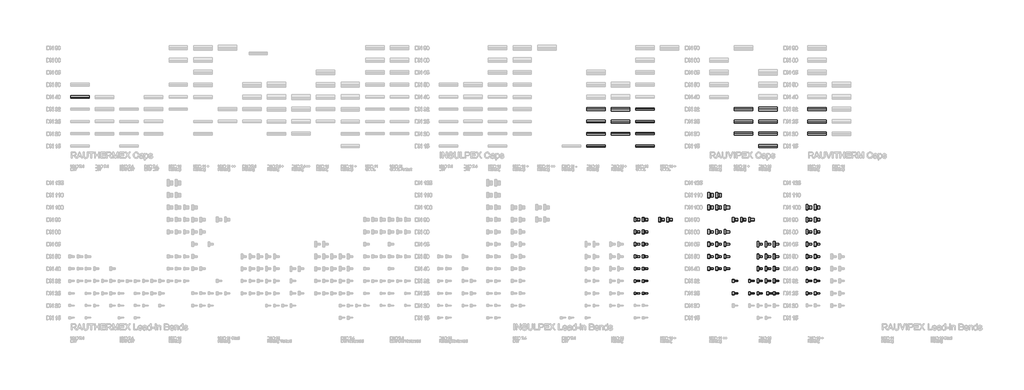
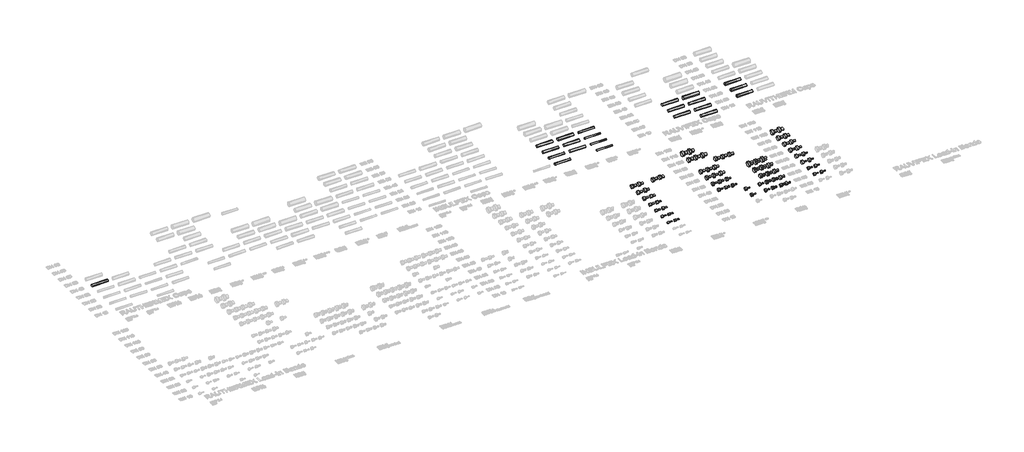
# One storey, part 5 of 44: 71 pipe fittings, 22 pipe segments.
"""IFC4 building model written with IfcOpenShell, lengths in millimetres."""

from ifc_helpers import new_model, si_unit, point, frame, frame_2d, origin, place, context, project, spatial, circle_curve, trimmed, segment, composite_curve, outline, extrude, transform, mapped, element, save
from components import dh_duo_cap_c0886c2c, dh_duo_cap_f26f5e47, dh_duo_cap_4544f480, dh_duo_cap_caf1f0f4, dh_duo_cap_27d9f26a, dh_duo_cap_9bd592f2, dh_duo_cap_72990c74, dh_duo_cap_e9755894, dh_duo_cap_d412eddf, dh_duo_cap_95b3e528, dh_uno_cap_f65759d9, dh_uno_cap_015867e2, dh_uno_cap_38107208, dh_uno_cap_73bbd93a, dh_uno_cap_eec5e457, dh_uno_cap_d7909df6, dh_uno_cap_13f4f05b, dh_uno_cap_8e0573e4, dh_uno_cap_ebf1c952, dh_uno_cap_b74b09e4, dh_uno_cap_660b20ca, dh_uno_cap_ae57088b, dh_uno_cap_9719752f, dh_uno_cap_746ec36d, dh_uno_cap_5b9ad759, dh_uno_cap_f6c26f3b, dh_uno_cap_b64fe8c9, dh_uno_cap_67f7fff9, dh_uno_cap_3a5f6496, dh_uno_cap_e9038ffe, dh_uno_cap_b1d16c7a, dh_uno_cap_cf52e909, dh_uno_cap_fdaf2922, dh_uno_cap_0c5a7a9d, dh_uno_cap_9340323c, dh_uno_cap_8bda4cdc, dh_uno_cap_1999be1b, dh_uno_cap_d5310323, dh_uno_cap_f227d3a7, dh_uno_cap_505df08c

model = new_model("IFC4")

# Units and contexts
model_context = context("Model", 3, world=origin())
ifc_project = project(units=[si_unit("LENGTHUNIT", "METRE", prefix="MILLI")], contexts=[model_context])

# Site, building, storey
site = spatial("IfcSite", under=ifc_project)
building = spatial("IfcBuilding", under=site)
storey = spatial("IfcBuildingStorey", under=building, Name="REHAU Starting view", Elevation=0.0)

# Pipe fittings
placement = place(None, origin())
dh_duo_cap_shape = dh_duo_cap_c0886c2c(model_context)
element("IfcPipeFitting", 1, ObjectType="DH_DUO_CAP : RAUVIPEX DUO 11 Heating - Schrink Cap", at=placement, inside=storey, context=model_context, shape_type="MappedRepresentation", body=[
    mapped(dh_duo_cap_shape, transform((29000.0, 8000.0, 0.0), x_axis=(1.0, 0.0, 0.0), y_axis=(0.0, 1.0, 0.0), z_axis=(0.0, 0.0, 1.0))),
])
element("IfcPipeFitting", 2, ObjectType="DH_DUO_CAP : RAUVIPEX DUO 11 Heating - Rubber Cap", at=placement, inside=storey, context=model_context, shape_type="MappedRepresentation", body=[
    mapped(dh_duo_cap_shape, transform((29400.0, 8000.0, 0.0), x_axis=(1.0, 0.0, 0.0), y_axis=(0.0, 1.0, 0.0), z_axis=(0.0, 0.0, 1.0))),
])
dh_duo_cap_2_shape = dh_duo_cap_f26f5e47(model_context)
element("IfcPipeFitting", 3, ObjectType="DH_DUO_CAP : RAUVIPEX DUO 11 Heating - Solid Cap", at=placement, inside=storey, context=model_context, shape_type="MappedRepresentation", body=[
    mapped(dh_duo_cap_2_shape, transform((29660.0, 8000.0, 0.0), x_axis=(1.0, 0.0, 0.0), y_axis=(0.0, 1.0, 0.0), z_axis=(0.0, 0.0, 1.0))),
])
dh_duo_cap_3_shape = dh_duo_cap_4544f480(model_context)
element("IfcPipeFitting", 4, ObjectType="DH_DUO_CAP : RAUVIPEX DUO 11 Heating - Schrink Cap", at=placement, inside=storey, context=model_context, shape_type="MappedRepresentation", body=[
    mapped(dh_duo_cap_3_shape, transform((29000.0, 8500.0, 0.0), x_axis=(1.0, 0.0, 0.0), y_axis=(0.0, 1.0, 0.0), z_axis=(0.0, 0.0, 1.0))),
])
element("IfcPipeFitting", 5, ObjectType="DH_DUO_CAP : RAUVIPEX DUO 11 Heating - Rubber Cap", at=placement, inside=storey, context=model_context, shape_type="MappedRepresentation", body=[
    mapped(dh_duo_cap_3_shape, transform((29330.0, 8500.0, 0.0), x_axis=(1.0, 0.0, 0.0), y_axis=(0.0, 1.0, 0.0), z_axis=(0.0, 0.0, 1.0))),
])
dh_duo_cap_4_shape = dh_duo_cap_caf1f0f4(model_context)
element("IfcPipeFitting", 6, ObjectType="DH_DUO_CAP : RAUVIPEX DUO 11 Heating - Solid Cap", at=placement, inside=storey, context=model_context, shape_type="MappedRepresentation", body=[
    mapped(dh_duo_cap_4_shape, transform((29660.0, 8500.0, 0.0), x_axis=(1.0, 0.0, 0.0), y_axis=(0.0, 1.0, 0.0), z_axis=(0.0, 0.0, 1.0))),
])
dh_duo_cap_5_shape = dh_duo_cap_27d9f26a(model_context)
element("IfcPipeFitting", 7, ObjectType="DH_DUO_CAP : RAUVIPEX DUO 11 Heating - Schrink Cap", at=placement, inside=storey, context=model_context, shape_type="MappedRepresentation", body=[
    mapped(dh_duo_cap_5_shape, transform((29000.0, 9000.0, 0.0), x_axis=(1.0, 0.0, 0.0), y_axis=(0.0, 1.0, 0.0), z_axis=(0.0, 0.0, 1.0))),
])
element("IfcPipeFitting", 8, ObjectType="DH_DUO_CAP : RAUVIPEX DUO 11 Heating - Rubber Cap", at=placement, inside=storey, context=model_context, shape_type="MappedRepresentation", body=[
    mapped(dh_duo_cap_5_shape, transform((29330.0, 9000.0, 0.0), x_axis=(1.0, 0.0, 0.0), y_axis=(0.0, 1.0, 0.0), z_axis=(0.0, 0.0, 1.0))),
])
dh_duo_cap_6_shape = dh_duo_cap_9bd592f2(model_context)
element("IfcPipeFitting", 9, ObjectType="DH_DUO_CAP : RAUVIPEX DUO 11 Heating - Solid Cap", at=placement, inside=storey, context=model_context, shape_type="MappedRepresentation", body=[
    mapped(dh_duo_cap_6_shape, transform((29660.0, 9000.0, 0.0), x_axis=(1.0, 0.0, 0.0), y_axis=(0.0, 1.0, 0.0), z_axis=(0.0, 0.0, 1.0))),
])
dh_duo_cap_7_shape = dh_duo_cap_72990c74(model_context)
element("IfcPipeFitting", 10, ObjectType="DH_DUO_CAP : RAUVIPEX DUO 11 Heating - Schrink Cap", at=placement, inside=storey, context=model_context, shape_type="MappedRepresentation", body=[
    mapped(dh_duo_cap_7_shape, transform((29000.0, 9500.0, 0.0), x_axis=(1.0, 0.0, 0.0), y_axis=(0.0, 1.0, 0.0), z_axis=(0.0, 0.0, 1.0))),
])
element("IfcPipeFitting", 11, ObjectType="DH_DUO_CAP : RAUVIPEX DUO 11 Heating - Rubber Cap", at=placement, inside=storey, context=model_context, shape_type="MappedRepresentation", body=[
    mapped(dh_duo_cap_7_shape, transform((29330.0, 9500.0, 0.0), x_axis=(1.0, 0.0, 0.0), y_axis=(0.0, 1.0, 0.0), z_axis=(0.0, 0.0, 1.0))),
])
dh_duo_cap_8_shape = dh_duo_cap_e9755894(model_context)
element("IfcPipeFitting", 12, ObjectType="DH_DUO_CAP : RAUVIPEX DUO 11 Heating - Solid Cap", at=placement, inside=storey, context=model_context, shape_type="MappedRepresentation", body=[
    mapped(dh_duo_cap_8_shape, transform((29660.0, 9500.0, 0.0), x_axis=(1.0, 0.0, 0.0), y_axis=(0.0, 1.0, 0.0), z_axis=(0.0, 0.0, 1.0))),
])
dh_duo_cap_9_shape = dh_duo_cap_d412eddf(model_context)
element("IfcPipeFitting", 13, ObjectType="DH_DUO_CAP : RAUVIPEX DUO 11 Heating - Schrink Cap", at=placement, inside=storey, context=model_context, shape_type="MappedRepresentation", body=[
    mapped(dh_duo_cap_9_shape, transform((29000.0, 10000.0, 0.0), x_axis=(1.0, 0.0, 0.0), y_axis=(0.0, 1.0, 0.0), z_axis=(0.0, 0.0, 1.0))),
])
element("IfcPipeFitting", 14, ObjectType="DH_DUO_CAP : RAUVIPEX DUO 11 Heating - Rubber Cap", at=placement, inside=storey, context=model_context, shape_type="MappedRepresentation", body=[
    mapped(dh_duo_cap_9_shape, transform((29330.0, 10000.0, 0.0), x_axis=(1.0, 0.0, 0.0), y_axis=(0.0, 1.0, 0.0), z_axis=(0.0, 0.0, 1.0))),
])
dh_duo_cap_10_shape = dh_duo_cap_95b3e528(model_context)
element("IfcPipeFitting", 15, ObjectType="DH_DUO_CAP : RAUVIPEX DUO 11 Heating - Solid Cap", at=placement, inside=storey, context=model_context, shape_type="MappedRepresentation", body=[
    mapped(dh_duo_cap_10_shape, transform((29660.0, 10000.0, 0.0), x_axis=(1.0, 0.0, 0.0), y_axis=(0.0, 1.0, 0.0), z_axis=(0.0, 0.0, 1.0))),
])
dh_uno_cap_shape = dh_uno_cap_f65759d9(model_context)
element("IfcPipeFitting", 16, ObjectType="DH_UNO_CAP : RAUVIPEX UNO 11 Heating - Schrink Cap", at=placement, inside=storey, context=model_context, shape_type="MappedRepresentation", body=[
    mapped(dh_uno_cap_shape, transform((27000.0, 9000.0, 0.0), x_axis=(1.0, 0.0, 0.0), y_axis=(0.0, 1.0, 0.0), z_axis=(0.0, 0.0, 1.0))),
])
dh_uno_cap_2_shape = dh_uno_cap_015867e2(model_context)
element("IfcPipeFitting", 17, ObjectType="DH_UNO_CAP : RAUVITHERM UNO 11 Heating - Schrink Cap", at=placement, inside=storey, context=model_context, shape_type="MappedRepresentation", body=[
    mapped(dh_uno_cap_2_shape, transform((31000.0, 8000.0, 0.0), x_axis=(1.0, 0.0, 0.0), y_axis=(0.0, -1.0, 0.0), z_axis=(0.0, 0.0, -1.0))),
])
element("IfcPipeFitting", 18, ObjectType="DH_UNO_CAP : RAUVIPEX UNO 11 Heating - Rubber Cap", at=placement, inside=storey, context=model_context, shape_type="MappedRepresentation", body=[
    mapped(dh_uno_cap_shape, transform((27330.0, 9000.0, 0.0), x_axis=(1.0, 0.0, 0.0), y_axis=(0.0, 1.0, 0.0), z_axis=(0.0, 0.0, 1.0))),
])
element("IfcPipeFitting", 19, ObjectType="DH_UNO_CAP : RAUVITHERM UNO 11 Heating - Rubber Cap", at=placement, inside=storey, context=model_context, shape_type="MappedRepresentation", body=[
    mapped(dh_uno_cap_2_shape, transform((31330.0, 8000.0, 0.0), x_axis=(1.0, 0.0, 0.0), y_axis=(0.0, -1.0, 0.0), z_axis=(0.0, 0.0, -1.0))),
])
dh_uno_cap_3_shape = dh_uno_cap_38107208(model_context)
element("IfcPipeFitting", 20, ObjectType="DH_UNO_CAP : RAUVIPEX UNO 11 Heating - Solid Cap", at=placement, inside=storey, context=model_context, shape_type="MappedRepresentation", body=[
    mapped(dh_uno_cap_3_shape, transform((27660.0, 9000.0, 0.0), x_axis=(1.0, 0.0, 0.0), y_axis=(0.0, 1.0, 0.0), z_axis=(0.0, 0.0, 1.0))),
])
dh_uno_cap_4_shape = dh_uno_cap_73bbd93a(model_context)
element("IfcPipeFitting", 21, ObjectType="DH_UNO_CAP : INSULPEX UNO + 11 COOL - Schrink Cap", at=placement, inside=storey, context=model_context, shape_type="MappedRepresentation", body=[
    mapped(dh_uno_cap_4_shape, transform((25000.0, 11000.0, 0.0), x_axis=(1.0, 0.0, 0.0), y_axis=(0.0, 1.0, 0.0), z_axis=(0.0, 0.0, 1.0))),
])
element("IfcPipeFitting", 22, ObjectType="DH_UNO_CAP : INSULPEX UNO + 11 COOL - Rubber Cap", at=placement, inside=storey, context=model_context, shape_type="MappedRepresentation", body=[
    mapped(dh_uno_cap_4_shape, transform((25330.0, 11000.0, 0.0), x_axis=(1.0, 0.0, 0.0), y_axis=(0.0, 1.0, 0.0), z_axis=(0.0, 0.0, 1.0))),
])
dh_uno_cap_5_shape = dh_uno_cap_eec5e457(model_context)
element("IfcPipeFitting", 23, ObjectType="DH_UNO_CAP : INSULPEX UNO 11 COOL - Rubber Cap", at=placement, inside=storey, context=model_context, shape_type="MappedRepresentation", body=[
    mapped(dh_uno_cap_5_shape, transform((24330.0, 11000.0, 0.0), x_axis=(1.0, 0.0, 0.0), y_axis=(0.0, -1.0, 0.0), z_axis=(0.0, 0.0, -1.0))),
])
element("IfcPipeFitting", 24, ObjectType="DH_UNO_CAP : INSULPEX UNO 11 COOL - Schrink Cap", at=placement, inside=storey, context=model_context, shape_type="MappedRepresentation", body=[
    mapped(dh_uno_cap_5_shape, transform((24000.0, 11000.0, 0.0), x_axis=(1.0, 0.0, 0.0), y_axis=(0.0, -1.0, 0.0), z_axis=(0.0, 0.0, -1.0))),
])
dh_uno_cap_6_shape = dh_uno_cap_d7909df6(model_context)
element("IfcPipeFitting", 25, ObjectType="DH_UNO_CAP : RAUVIPEX UNO + 11 Heating - Rubber Cap", at=placement, inside=storey, context=model_context, shape_type="MappedRepresentation", body=[
    mapped(dh_uno_cap_6_shape, transform((28330.0, 11000.0, 0.0), x_axis=(1.0, 0.0, 0.0), y_axis=(0.0, 1.0, 0.0), z_axis=(0.0, 0.0, 1.0))),
])
element("IfcPipeFitting", 26, ObjectType="DH_UNO_CAP : RAUVIPEX UNO + 11 Heating - Schrink Cap", at=placement, inside=storey, context=model_context, shape_type="MappedRepresentation", body=[
    mapped(dh_uno_cap_6_shape, transform((28000.0, 11000.0, 0.0), x_axis=(1.0, 0.0, 0.0), y_axis=(0.0, 1.0, 0.0), z_axis=(0.0, 0.0, 1.0))),
])
dh_uno_cap_7_shape = dh_uno_cap_13f4f05b(model_context)
element("IfcPipeFitting", 27, ObjectType="DH_UNO_CAP : RAUVIPEX UNO + 11 Heating - Solid Cap", at=placement, inside=storey, context=model_context, shape_type="MappedRepresentation", body=[
    mapped(dh_uno_cap_7_shape, transform((28660.0, 11000.0, 0.0), x_axis=(1.0, 0.0, 0.0), y_axis=(0.0, 1.0, 0.0), z_axis=(0.0, 0.0, 1.0))),
])
dh_uno_cap_8_shape = dh_uno_cap_8e0573e4(model_context)
element("IfcPipeFitting", 28, ObjectType="DH_UNO_CAP : INSULPEX UNO 11 COOL - Schrink Cap", at=placement, inside=storey, context=model_context, shape_type="MappedRepresentation", body=[
    mapped(dh_uno_cap_8_shape, transform((24000.0, 8000.0, 0.0), x_axis=(1.0, 0.0, 0.0), y_axis=(0.0, -1.0, 0.0), z_axis=(0.0, 0.0, -1.0))),
])
dh_uno_cap_9_shape = dh_uno_cap_ebf1c952(model_context)
element("IfcPipeFitting", 29, ObjectType="DH_UNO_CAP : INSULPEX UNO 11 COOL - Schrink Cap", at=placement, inside=storey, context=model_context, shape_type="MappedRepresentation", body=[
    mapped(dh_uno_cap_9_shape, transform((24000.0, 8500.0, 0.0), x_axis=(1.0, 0.0, 0.0), y_axis=(0.0, -1.0, 0.0), z_axis=(0.0, 0.0, -1.0))),
])
dh_uno_cap_10_shape = dh_uno_cap_b74b09e4(model_context)
element("IfcPipeFitting", 30, ObjectType="DH_UNO_CAP : INSULPEX UNO 11 COOL - Schrink Cap", at=placement, inside=storey, context=model_context, shape_type="MappedRepresentation", body=[
    mapped(dh_uno_cap_10_shape, transform((24000.0, 9000.0, 0.0), x_axis=(1.0, 0.0, 0.0), y_axis=(0.0, -1.0, 0.0), z_axis=(0.0, 0.0, -1.0))),
])
dh_uno_cap_11_shape = dh_uno_cap_660b20ca(model_context)
element("IfcPipeFitting", 31, ObjectType="DH_UNO_CAP : INSULPEX UNO 11 COOL - Schrink Cap", at=placement, inside=storey, context=model_context, shape_type="MappedRepresentation", body=[
    mapped(dh_uno_cap_11_shape, transform((24000.0, 9500.0, 0.0), x_axis=(1.0, 0.0, 0.0), y_axis=(0.0, -1.0, 0.0), z_axis=(0.0, 0.0, -1.0))),
])
dh_uno_cap_12_shape = dh_uno_cap_ae57088b(model_context)
element("IfcPipeFitting", 32, ObjectType="DH_UNO_CAP : INSULPEX UNO 11 COOL - Schrink Cap", at=placement, inside=storey, context=model_context, shape_type="MappedRepresentation", body=[
    mapped(dh_uno_cap_12_shape, transform((24000.0, 10000.0, 0.0), x_axis=(1.0, 0.0, 0.0), y_axis=(0.0, -1.0, 0.0), z_axis=(0.0, 0.0, -1.0))),
])
dh_uno_cap_13_shape = dh_uno_cap_9719752f(model_context)
element("IfcPipeFitting", 33, ObjectType="DH_UNO_CAP : INSULPEX UNO 11 COOL - Schrink Cap", at=placement, inside=storey, context=model_context, shape_type="MappedRepresentation", body=[
    mapped(dh_uno_cap_13_shape, transform((24000.0, 10500.0, 0.0), x_axis=(1.0, 0.0, 0.0), y_axis=(0.0, -1.0, 0.0), z_axis=(0.0, 0.0, -1.0))),
])
dh_uno_cap_14_shape = dh_uno_cap_746ec36d(model_context)
element("IfcPipeFitting", 34, ObjectType="DH_UNO_CAP : RAUVITHERM UNO 11 Heating - Schrink Cap", at=placement, inside=storey, context=model_context, shape_type="MappedRepresentation", body=[
    mapped(dh_uno_cap_14_shape, transform((31000.0, 8500.0, 0.0), x_axis=(1.0, 0.0, 0.0), y_axis=(0.0, -1.0, 0.0), z_axis=(0.0, 0.0, -1.0))),
])
element("IfcPipeFitting", 35, ObjectType="DH_UNO_CAP : RAUVITHERM UNO 11 Heating - Rubber Cap", at=placement, inside=storey, context=model_context, shape_type="MappedRepresentation", body=[
    mapped(dh_uno_cap_14_shape, transform((31330.0, 8500.0, 0.0), x_axis=(1.0, 0.0, 0.0), y_axis=(0.0, -1.0, 0.0), z_axis=(0.0, 0.0, -1.0))),
])
dh_uno_cap_15_shape = dh_uno_cap_5b9ad759(model_context)
element("IfcPipeFitting", 36, ObjectType="DH_UNO_CAP : RAUVITHERM UNO 11 Heating - Schrink Cap", at=placement, inside=storey, context=model_context, shape_type="MappedRepresentation", body=[
    mapped(dh_uno_cap_15_shape, transform((31000.0, 9000.0, 0.0), x_axis=(1.0, 0.0, 0.0), y_axis=(0.0, -1.0, 0.0), z_axis=(0.0, 0.0, -1.0))),
])
element("IfcPipeFitting", 37, ObjectType="DH_UNO_CAP : RAUVITHERM UNO 11 Heating - Rubber Cap", at=placement, inside=storey, context=model_context, shape_type="MappedRepresentation", body=[
    mapped(dh_uno_cap_15_shape, transform((31330.0, 9000.0, 0.0), x_axis=(1.0, 0.0, 0.0), y_axis=(0.0, -1.0, 0.0), z_axis=(0.0, 0.0, -1.0))),
])
dh_uno_cap_16_shape = dh_uno_cap_f6c26f3b(model_context)
element("IfcPipeFitting", 38, ObjectType="DH_UNO_CAP : RAUVITHERM UNO 11 Heating - Schrink Cap", at=placement, inside=storey, context=model_context, shape_type="MappedRepresentation", body=[
    mapped(dh_uno_cap_16_shape, transform((31000.0, 9500.0, 0.0), x_axis=(1.0, 0.0, 0.0), y_axis=(0.0, -1.0, 0.0), z_axis=(0.0, 0.0, -1.0))),
])
element("IfcPipeFitting", 39, ObjectType="DH_UNO_CAP : RAUVITHERM UNO 11 Heating - Rubber Cap", at=placement, inside=storey, context=model_context, shape_type="MappedRepresentation", body=[
    mapped(dh_uno_cap_16_shape, transform((31330.0, 9500.0, 0.0), x_axis=(1.0, 0.0, 0.0), y_axis=(0.0, -1.0, 0.0), z_axis=(0.0, 0.0, -1.0))),
])
dh_uno_cap_17_shape = dh_uno_cap_b64fe8c9(model_context)
element("IfcPipeFitting", 40, ObjectType="DH_UNO_CAP : RAUVITHERM UNO 11 Heating - Schrink Cap", at=placement, inside=storey, context=model_context, shape_type="MappedRepresentation", body=[
    mapped(dh_uno_cap_17_shape, transform((31000.0, 10000.0, 0.0), x_axis=(1.0, 0.0, 0.0), y_axis=(0.0, -1.0, 0.0), z_axis=(0.0, 0.0, -1.0))),
])
element("IfcPipeFitting", 41, ObjectType="DH_UNO_CAP : RAUVITHERM UNO 11 Heating - Rubber Cap", at=placement, inside=storey, context=model_context, shape_type="MappedRepresentation", body=[
    mapped(dh_uno_cap_17_shape, transform((31330.0, 10000.0, 0.0), x_axis=(1.0, 0.0, 0.0), y_axis=(0.0, -1.0, 0.0), z_axis=(0.0, 0.0, -1.0))),
])
dh_uno_cap_18_shape = dh_uno_cap_67f7fff9(model_context)
element("IfcPipeFitting", 42, ObjectType="DH_UNO_CAP : RAUVITHERM UNO 11 Heating - Schrink Cap", at=placement, inside=storey, context=model_context, shape_type="MappedRepresentation", body=[
    mapped(dh_uno_cap_18_shape, transform((31000.0, 10500.0, 0.0), x_axis=(1.0, 0.0, 0.0), y_axis=(0.0, -1.0, 0.0), z_axis=(0.0, 0.0, -1.0))),
])
element("IfcPipeFitting", 43, ObjectType="DH_UNO_CAP : RAUVITHERM UNO 11 Heating - Rubber Cap", at=placement, inside=storey, context=model_context, shape_type="MappedRepresentation", body=[
    mapped(dh_uno_cap_18_shape, transform((31330.0, 10500.0, 0.0), x_axis=(1.0, 0.0, 0.0), y_axis=(0.0, -1.0, 0.0), z_axis=(0.0, 0.0, -1.0))),
])
dh_uno_cap_19_shape = dh_uno_cap_3a5f6496(model_context)
element("IfcPipeFitting", 44, ObjectType="DH_UNO_CAP : RAUVITHERM UNO 11 Heating - Schrink Cap", at=placement, inside=storey, context=model_context, shape_type="MappedRepresentation", body=[
    mapped(dh_uno_cap_19_shape, transform((31000.0, 11000.0, 0.0), x_axis=(1.0, 0.0, 0.0), y_axis=(0.0, -1.0, 0.0), z_axis=(0.0, 0.0, -1.0))),
])
element("IfcPipeFitting", 45, ObjectType="DH_UNO_CAP : RAUVITHERM UNO 11 Heating - Rubber Cap", at=placement, inside=storey, context=model_context, shape_type="MappedRepresentation", body=[
    mapped(dh_uno_cap_19_shape, transform((31330.0, 11000.0, 0.0), x_axis=(1.0, 0.0, 0.0), y_axis=(0.0, -1.0, 0.0), z_axis=(0.0, 0.0, -1.0))),
])
dh_uno_cap_20_shape = dh_uno_cap_e9038ffe(model_context)
element("IfcPipeFitting", 46, ObjectType="DH_UNO_CAP : RAUVITHERM UNO 11 Heating - Schrink Cap", at=placement, inside=storey, context=model_context, shape_type="MappedRepresentation", body=[
    mapped(dh_uno_cap_20_shape, transform((31000.0, 11500.0, 0.0), x_axis=(1.0, 0.0, 0.0), y_axis=(0.0, -1.0, 0.0), z_axis=(0.0, 0.0, -1.0))),
])
element("IfcPipeFitting", 47, ObjectType="DH_UNO_CAP : RAUVITHERM UNO 11 Heating - Rubber Cap", at=placement, inside=storey, context=model_context, shape_type="MappedRepresentation", body=[
    mapped(dh_uno_cap_20_shape, transform((31330.0, 11500.0, 0.0), x_axis=(1.0, 0.0, 0.0), y_axis=(0.0, -1.0, 0.0), z_axis=(0.0, 0.0, -1.0))),
])
element("IfcPipeFitting", 48, ObjectType="DH_UNO_CAP : RAUVIPEX UNO 11 Heating - Schrink Cap", at=placement, inside=storey, context=model_context, shape_type="MappedRepresentation", body=[
    mapped(dh_uno_cap_16_shape, transform((27000.0, 9500.0, 0.0), x_axis=(1.0, 0.0, 0.0), y_axis=(0.0, 1.0, 0.0), z_axis=(0.0, 0.0, 1.0))),
])
element("IfcPipeFitting", 49, ObjectType="DH_UNO_CAP : RAUVIPEX UNO 11 Heating - Schrink Cap", at=placement, inside=storey, context=model_context, shape_type="MappedRepresentation", body=[
    mapped(dh_uno_cap_17_shape, transform((27000.0, 10000.0, 0.0), x_axis=(1.0, 0.0, 0.0), y_axis=(0.0, 1.0, 0.0), z_axis=(0.0, 0.0, 1.0))),
])
element("IfcPipeFitting", 50, ObjectType="DH_UNO_CAP : RAUVIPEX UNO 11 Heating - Schrink Cap", at=placement, inside=storey, context=model_context, shape_type="MappedRepresentation", body=[
    mapped(dh_uno_cap_18_shape, transform((27000.0, 10500.0, 0.0), x_axis=(1.0, 0.0, 0.0), y_axis=(0.0, 1.0, 0.0), z_axis=(0.0, 0.0, 1.0))),
])
dh_uno_cap_21_shape = dh_uno_cap_b1d16c7a(model_context)
element("IfcPipeFitting", 51, ObjectType="DH_UNO_CAP : RAUVIPEX UNO 11 Heating - Schrink Cap", at=placement, inside=storey, context=model_context, shape_type="MappedRepresentation", body=[
    mapped(dh_uno_cap_21_shape, transform((27000.0, 11500.0, 0.0), x_axis=(1.0, 0.0, 0.0), y_axis=(0.0, 1.0, 0.0), z_axis=(0.0, 0.0, 1.0))),
])
dh_uno_cap_22_shape = dh_uno_cap_cf52e909(model_context)
element("IfcPipeFitting", 52, ObjectType="DH_UNO_CAP : RAUVIPEX UNO 11 Heating - Schrink Cap", at=placement, inside=storey, context=model_context, shape_type="MappedRepresentation", body=[
    mapped(dh_uno_cap_22_shape, transform((27000.0, 12000.0, 0.0), x_axis=(1.0, 0.0, 0.0), y_axis=(0.0, 1.0, 0.0), z_axis=(0.0, 0.0, 1.0))),
])
dh_uno_cap_23_shape = dh_uno_cap_fdaf2922(model_context)
element("IfcPipeFitting", 53, ObjectType="DH_UNO_CAP : RAUVIPEX UNO + 11 Heating - Schrink Cap", at=placement, inside=storey, context=model_context, shape_type="MappedRepresentation", body=[
    mapped(dh_uno_cap_23_shape, transform((28000.0, 8000.0, 0.0), x_axis=(1.0, 0.0, 0.0), y_axis=(0.0, 1.0, 0.0), z_axis=(0.0, 0.0, 1.0))),
])
dh_uno_cap_24_shape = dh_uno_cap_0c5a7a9d(model_context)
element("IfcPipeFitting", 54, ObjectType="DH_UNO_CAP : RAUVIPEX UNO + 11 Heating - Solid Cap", at=placement, inside=storey, context=model_context, shape_type="MappedRepresentation", body=[
    mapped(dh_uno_cap_24_shape, transform((28660.0, 8000.0, 0.0), x_axis=(1.0, 0.0, 0.0), y_axis=(0.0, 1.0, 0.0), z_axis=(0.0, 0.0, 1.0))),
])
dh_uno_cap_25_shape = dh_uno_cap_9340323c(model_context)
element("IfcPipeFitting", 55, ObjectType="DH_UNO_CAP : RAUVIPEX UNO + 11 Heating - Schrink Cap", at=placement, inside=storey, context=model_context, shape_type="MappedRepresentation", body=[
    mapped(dh_uno_cap_25_shape, transform((28000.0, 8500.0, 0.0), x_axis=(1.0, 0.0, 0.0), y_axis=(0.0, 1.0, 0.0), z_axis=(0.0, 0.0, 1.0))),
])
dh_uno_cap_26_shape = dh_uno_cap_8bda4cdc(model_context)
element("IfcPipeFitting", 56, ObjectType="DH_UNO_CAP : RAUVIPEX UNO + 11 Heating - Solid Cap", at=placement, inside=storey, context=model_context, shape_type="MappedRepresentation", body=[
    mapped(dh_uno_cap_26_shape, transform((28660.0, 8500.0, 0.0), x_axis=(1.0, 0.0, 0.0), y_axis=(0.0, 1.0, 0.0), z_axis=(0.0, 0.0, 1.0))),
])
element("IfcPipeFitting", 57, ObjectType="DH_UNO_CAP : INSULPEX UNO 11 COOL - Rubber Cap", at=placement, inside=storey, context=model_context, shape_type="MappedRepresentation", body=[
    mapped(dh_uno_cap_8_shape, transform((24330.0, 8000.0, 0.0), x_axis=(1.0, 0.0, 0.0), y_axis=(0.0, -1.0, 0.0), z_axis=(0.0, 0.0, -1.0))),
])
element("IfcPipeFitting", 58, ObjectType="DH_UNO_CAP : INSULPEX UNO 11 COOL - Rubber Cap", at=placement, inside=storey, context=model_context, shape_type="MappedRepresentation", body=[
    mapped(dh_uno_cap_9_shape, transform((24330.0, 8500.0, 0.0), x_axis=(1.0, 0.0, 0.0), y_axis=(0.0, -1.0, 0.0), z_axis=(0.0, 0.0, -1.0))),
])
element("IfcPipeFitting", 59, ObjectType="DH_UNO_CAP : INSULPEX UNO 11 COOL - Rubber Cap", at=placement, inside=storey, context=model_context, shape_type="MappedRepresentation", body=[
    mapped(dh_uno_cap_10_shape, transform((24330.0, 9000.0, 0.0), x_axis=(1.0, 0.0, 0.0), y_axis=(0.0, -1.0, 0.0), z_axis=(0.0, 0.0, -1.0))),
])
element("IfcPipeFitting", 60, ObjectType="DH_UNO_CAP : INSULPEX UNO 11 COOL - Rubber Cap", at=placement, inside=storey, context=model_context, shape_type="MappedRepresentation", body=[
    mapped(dh_uno_cap_11_shape, transform((24330.0, 9500.0, 0.0), x_axis=(1.0, 0.0, 0.0), y_axis=(0.0, -1.0, 0.0), z_axis=(0.0, 0.0, -1.0))),
])
element("IfcPipeFitting", 61, ObjectType="DH_UNO_CAP : INSULPEX UNO 11 COOL - Rubber Cap", at=placement, inside=storey, context=model_context, shape_type="MappedRepresentation", body=[
    mapped(dh_uno_cap_12_shape, transform((24330.0, 10000.0, 0.0), x_axis=(1.0, 0.0, 0.0), y_axis=(0.0, -1.0, 0.0), z_axis=(0.0, 0.0, -1.0))),
])
element("IfcPipeFitting", 62, ObjectType="DH_UNO_CAP : INSULPEX UNO 11 COOL - Rubber Cap", at=placement, inside=storey, context=model_context, shape_type="MappedRepresentation", body=[
    mapped(dh_uno_cap_13_shape, transform((24330.0, 10500.0, 0.0), x_axis=(1.0, 0.0, 0.0), y_axis=(0.0, -1.0, 0.0), z_axis=(0.0, 0.0, -1.0))),
])
element("IfcPipeFitting", 63, ObjectType="DH_UNO_CAP : RAUVIPEX UNO 11 Heating - Rubber Cap", at=placement, inside=storey, context=model_context, shape_type="MappedRepresentation", body=[
    mapped(dh_uno_cap_16_shape, transform((27330.0, 9500.0, 0.0), x_axis=(1.0, 0.0, 0.0), y_axis=(0.0, 1.0, 0.0), z_axis=(0.0, 0.0, 1.0))),
])
element("IfcPipeFitting", 64, ObjectType="DH_UNO_CAP : RAUVIPEX UNO 11 Heating - Rubber Cap", at=placement, inside=storey, context=model_context, shape_type="MappedRepresentation", body=[
    mapped(dh_uno_cap_17_shape, transform((27330.0, 10000.0, 0.0), x_axis=(1.0, 0.0, 0.0), y_axis=(0.0, 1.0, 0.0), z_axis=(0.0, 0.0, 1.0))),
])
element("IfcPipeFitting", 65, ObjectType="DH_UNO_CAP : RAUVIPEX UNO 11 Heating - Rubber Cap", at=placement, inside=storey, context=model_context, shape_type="MappedRepresentation", body=[
    mapped(dh_uno_cap_18_shape, transform((27330.0, 10500.0, 0.0), x_axis=(1.0, 0.0, 0.0), y_axis=(0.0, 1.0, 0.0), z_axis=(0.0, 0.0, 1.0))),
])
element("IfcPipeFitting", 66, ObjectType="DH_UNO_CAP : RAUVIPEX UNO 11 Heating - Rubber Cap", at=placement, inside=storey, context=model_context, shape_type="MappedRepresentation", body=[
    mapped(dh_uno_cap_21_shape, transform((27330.0, 11500.0, 0.0), x_axis=(1.0, 0.0, 0.0), y_axis=(0.0, 1.0, 0.0), z_axis=(0.0, 0.0, 1.0))),
])
element("IfcPipeFitting", 67, ObjectType="DH_UNO_CAP : RAUVIPEX UNO 11 Heating - Rubber Cap", at=placement, inside=storey, context=model_context, shape_type="MappedRepresentation", body=[
    mapped(dh_uno_cap_22_shape, transform((27330.0, 12000.0, 0.0), x_axis=(1.0, 0.0, 0.0), y_axis=(0.0, 1.0, 0.0), z_axis=(0.0, 0.0, 1.0))),
])
dh_uno_cap_27_shape = dh_uno_cap_1999be1b(model_context)
element("IfcPipeFitting", 68, ObjectType="DH_UNO_CAP : RAUVIPEX UNO 11 Heating - Solid Cap", at=placement, inside=storey, context=model_context, shape_type="MappedRepresentation", body=[
    mapped(dh_uno_cap_27_shape, transform((27660.0, 9500.0, 0.0), x_axis=(1.0, 0.0, 0.0), y_axis=(0.0, 1.0, 0.0), z_axis=(0.0, 0.0, 1.0))),
])
dh_uno_cap_28_shape = dh_uno_cap_d5310323(model_context)
element("IfcPipeFitting", 69, ObjectType="DH_UNO_CAP : RAUVIPEX UNO 11 Heating - Solid Cap", at=placement, inside=storey, context=model_context, shape_type="MappedRepresentation", body=[
    mapped(dh_uno_cap_28_shape, transform((27660.0, 10000.0, 0.0), x_axis=(1.0, 0.0, 0.0), y_axis=(0.0, 1.0, 0.0), z_axis=(0.0, 0.0, 1.0))),
])
dh_uno_cap_29_shape = dh_uno_cap_f227d3a7(model_context)
element("IfcPipeFitting", 70, ObjectType="DH_UNO_CAP : RAUVIPEX UNO 11 Heating - Solid Cap", at=placement, inside=storey, context=model_context, shape_type="MappedRepresentation", body=[
    mapped(dh_uno_cap_29_shape, transform((27660.0, 10500.0, 0.0), x_axis=(1.0, 0.0, 0.0), y_axis=(0.0, 1.0, 0.0), z_axis=(0.0, 0.0, 1.0))),
])
dh_uno_cap_30_shape = dh_uno_cap_505df08c(model_context)
element("IfcPipeFitting", 71, ObjectType="DH_UNO_CAP : RAUVIPEX UNO 11 Heating - Solid Cap", at=placement, inside=storey, context=model_context, shape_type="MappedRepresentation", body=[
    mapped(dh_uno_cap_30_shape, transform((27660.0, 11500.0, 0.0), x_axis=(1.0, 0.0, 0.0), y_axis=(0.0, 1.0, 0.0), z_axis=(0.0, 0.0, 1.0))),
])

# Pipe segments
element("IfcPipeSegment", 72, ObjectType="RAUTHERMEX UNO 7.4 DW", at=placement, inside=storey, context=model_context, shape_type="SweptSolid", body=[
    extrude(outline(composite_curve([segment(trimmed(circle_curve(frame_2d((16000.0, 0.0)), 55.5), [point((15944.5, 0.0))], [point((16000.0, 55.5))], False, "CARTESIAN"), True, "CONTINUOUS"), segment(trimmed(circle_curve(frame_2d((16000.0, 0.0)), 55.5), [point((16000.0, 55.5))], [point((16055.5, 0.0))], False, "CARTESIAN"), True, "CONTINUOUS"), segment(trimmed(circle_curve(frame_2d((16000.0, 0.0)), 55.5), [point((16055.5, 0.0))], [point((16000.0, -55.5))], False, "CARTESIAN"), True, "CONTINUOUS"), segment(trimmed(circle_curve(frame_2d((16000.0, 0.0)), 55.5), [point((16000.0, -55.5))], [point((15944.5, 0.0))], False, "CARTESIAN"), True, "CONTINUOUS")], self_intersect=False)), frame((1000.0, 0.0, 0.0), z_axis=(1.0, 0.0, 0.0), x_axis=(0.0, 1.0, 0.0)), (0.0, 0.0, 1.0), 750.0),
])
element("IfcPipeSegment", 73, ObjectType="INSULPEX DUO 11 Heating", at=placement, inside=storey, context=model_context, shape_type="SweptSolid", body=[
    extrude(outline(composite_curve([segment(trimmed(circle_curve(frame_2d((15000.0, 0.0)), 55.0), [point((14945.0, 0.0))], [point((15000.0, 55.0))], False, "CARTESIAN"), True, "CONTINUOUS"), segment(trimmed(circle_curve(frame_2d((15000.0, 0.0)), 55.0), [point((15000.0, 55.0))], [point((15055.0, 0.0))], False, "CARTESIAN"), True, "CONTINUOUS"), segment(trimmed(circle_curve(frame_2d((15000.0, 0.0)), 55.0), [point((15055.0, 0.0))], [point((15000.0, -55.0))], False, "CARTESIAN"), True, "CONTINUOUS"), segment(trimmed(circle_curve(frame_2d((15000.0, 0.0)), 55.0), [point((15000.0, -55.0))], [point((14945.0, 0.0))], False, "CARTESIAN"), True, "CONTINUOUS")], self_intersect=False)), frame((22000.0, 0.0, 0.0), z_axis=(1.0, 0.0, 0.0), x_axis=(0.0, 1.0, 0.0)), (0.0, 0.0, 1.0), 750.0),
])
element("IfcPipeSegment", 74, ObjectType="INSULPEX DUO 11 Heating", at=placement, inside=storey, context=model_context, shape_type="SweptSolid", body=[
    extrude(outline(composite_curve([segment(trimmed(circle_curve(frame_2d((15500.0, 0.0)), 62.5), [point((15437.5, 0.0))], [point((15500.0, 62.5))], False, "CARTESIAN"), True, "CONTINUOUS"), segment(trimmed(circle_curve(frame_2d((15500.0, 0.0)), 62.5), [point((15500.0, 62.5))], [point((15562.5, 0.0))], False, "CARTESIAN"), True, "CONTINUOUS"), segment(trimmed(circle_curve(frame_2d((15500.0, 0.0)), 62.5), [point((15562.5, 0.0))], [point((15500.0, -62.5))], False, "CARTESIAN"), True, "CONTINUOUS"), segment(trimmed(circle_curve(frame_2d((15500.0, 0.0)), 62.5), [point((15500.0, -62.5))], [point((15437.5, 0.0))], False, "CARTESIAN"), True, "CONTINUOUS")], self_intersect=False)), frame((22000.0, 0.0, 0.0), z_axis=(1.0, 0.0, 0.0), x_axis=(0.0, 1.0, 0.0)), (0.0, 0.0, 1.0), 750.0),
])
element("IfcPipeSegment", 75, ObjectType="INSULPEX DUO 11 Heating", at=placement, inside=storey, context=model_context, shape_type="SweptSolid", body=[
    extrude(outline(composite_curve([segment(trimmed(circle_curve(frame_2d((14500.0, 0.0)), 45.0), [point((14455.0, 0.0))], [point((14500.0, 45.0))], False, "CARTESIAN"), True, "CONTINUOUS"), segment(trimmed(circle_curve(frame_2d((14500.0, 0.0)), 45.0), [point((14500.0, 45.0))], [point((14545.0, 0.0))], False, "CARTESIAN"), True, "CONTINUOUS"), segment(trimmed(circle_curve(frame_2d((14500.0, 0.0)), 45.0), [point((14545.0, 0.0))], [point((14500.0, -45.0))], False, "CARTESIAN"), True, "CONTINUOUS"), segment(trimmed(circle_curve(frame_2d((14500.0, 0.0)), 45.0), [point((14500.0, -45.0))], [point((14455.0, 0.0))], False, "CARTESIAN"), True, "CONTINUOUS")], self_intersect=False)), frame((22000.0, 0.0, 0.0), z_axis=(1.0, 0.0, 0.0), x_axis=(0.0, 1.0, 0.0)), (0.0, 0.0, 1.0), 750.0),
])
element("IfcPipeSegment", 76, ObjectType="INSULPEX DUO 11 Heating", at=placement, inside=storey, context=model_context, shape_type="SweptSolid", body=[
    extrude(outline(composite_curve([segment(trimmed(circle_curve(frame_2d((14000.0, 0.0)), 45.0), [point((13955.0, 0.0))], [point((14000.0, 45.0))], False, "CARTESIAN"), True, "CONTINUOUS"), segment(trimmed(circle_curve(frame_2d((14000.0, 0.0)), 45.0), [point((14000.0, 45.0))], [point((14045.0, 0.0))], False, "CARTESIAN"), True, "CONTINUOUS"), segment(trimmed(circle_curve(frame_2d((14000.0, 0.0)), 45.0), [point((14045.0, 0.0))], [point((14000.0, -45.0))], False, "CARTESIAN"), True, "CONTINUOUS"), segment(trimmed(circle_curve(frame_2d((14000.0, 0.0)), 45.0), [point((14000.0, -45.0))], [point((13955.0, 0.0))], False, "CARTESIAN"), True, "CONTINUOUS")], self_intersect=False)), frame((22000.0, 0.0, 0.0), z_axis=(1.0, 0.0, 0.0), x_axis=(0.0, 1.0, 0.0)), (0.0, 0.0, 1.0), 750.0),
])
element("IfcPipeSegment", 77, ObjectType="INSULPEX DUO + 11 Heating", at=placement, inside=storey, context=model_context, shape_type="SweptSolid", body=[
    extrude(outline(composite_curve([segment(trimmed(circle_curve(frame_2d((15000.0, 0.0)), 62.5), [point((14937.5, 0.0))], [point((15000.0, 62.5))], False, "CARTESIAN"), True, "CONTINUOUS"), segment(trimmed(circle_curve(frame_2d((15000.0, 0.0)), 62.5), [point((15000.0, 62.5))], [point((15062.5, 0.0))], False, "CARTESIAN"), True, "CONTINUOUS"), segment(trimmed(circle_curve(frame_2d((15000.0, 0.0)), 62.5), [point((15062.5, 0.0))], [point((15000.0, -62.5))], False, "CARTESIAN"), True, "CONTINUOUS"), segment(trimmed(circle_curve(frame_2d((15000.0, 0.0)), 62.5), [point((15000.0, -62.5))], [point((14937.5, 0.0))], False, "CARTESIAN"), True, "CONTINUOUS")], self_intersect=False)), frame((23000.0, 0.0, 0.0), z_axis=(1.0, 0.0, 0.0), x_axis=(0.0, 1.0, 0.0)), (0.0, 0.0, 1.0), 750.0),
])
element("IfcPipeSegment", 78, ObjectType="INSULPEX DUO + 11 Heating", at=placement, inside=storey, context=model_context, shape_type="SweptSolid", body=[
    extrude(outline(composite_curve([segment(trimmed(circle_curve(frame_2d((15500.0, 0.0)), 70.0), [point((15430.0, 0.0))], [point((15500.0, 70.0))], False, "CARTESIAN"), True, "CONTINUOUS"), segment(trimmed(circle_curve(frame_2d((15500.0, 0.0)), 70.0), [point((15500.0, 70.0))], [point((15570.0, 0.0))], False, "CARTESIAN"), True, "CONTINUOUS"), segment(trimmed(circle_curve(frame_2d((15500.0, 0.0)), 70.0), [point((15570.0, 0.0))], [point((15500.0, -70.0))], False, "CARTESIAN"), True, "CONTINUOUS"), segment(trimmed(circle_curve(frame_2d((15500.0, 0.0)), 70.0), [point((15500.0, -70.0))], [point((15430.0, 0.0))], False, "CARTESIAN"), True, "CONTINUOUS")], self_intersect=False)), frame((23000.0, 0.0, 0.0), z_axis=(1.0, 0.0, 0.0), x_axis=(0.0, 1.0, 0.0)), (0.0, 0.0, 1.0), 750.0),
])
element("IfcPipeSegment", 79, ObjectType="INSULPEX DUO + 11 Heating", at=placement, inside=storey, context=model_context, shape_type="SweptSolid", body=[
    extrude(outline(composite_curve([segment(trimmed(circle_curve(frame_2d((14500.0, 0.0)), 55.0), [point((14445.0, 0.0))], [point((14500.0, 55.0))], False, "CARTESIAN"), True, "CONTINUOUS"), segment(trimmed(circle_curve(frame_2d((14500.0, 0.0)), 55.0), [point((14500.0, 55.0))], [point((14555.0, 0.0))], False, "CARTESIAN"), True, "CONTINUOUS"), segment(trimmed(circle_curve(frame_2d((14500.0, 0.0)), 55.0), [point((14555.0, 0.0))], [point((14500.0, -55.0))], False, "CARTESIAN"), True, "CONTINUOUS"), segment(trimmed(circle_curve(frame_2d((14500.0, 0.0)), 55.0), [point((14500.0, -55.0))], [point((14445.0, 0.0))], False, "CARTESIAN"), True, "CONTINUOUS")], self_intersect=False)), frame((23000.0, 0.0, 0.0), z_axis=(1.0, 0.0, 0.0), x_axis=(0.0, 1.0, 0.0)), (0.0, 0.0, 1.0), 750.0),
])
element("IfcPipeSegment", 80, ObjectType="INSULPEX UNO 11 COOL", at=placement, inside=storey, context=model_context, shape_type="SweptSolid", body=[
    extrude(outline(composite_curve([segment(trimmed(circle_curve(frame_2d((15000.0, 0.0)), 37.5), [point((14962.5, 0.0))], [point((15000.0, 37.5))], False, "CARTESIAN"), True, "CONTINUOUS"), segment(trimmed(circle_curve(frame_2d((15000.0, 0.0)), 37.5), [point((15000.0, 37.5))], [point((15037.5, 0.0))], False, "CARTESIAN"), True, "CONTINUOUS"), segment(trimmed(circle_curve(frame_2d((15000.0, 0.0)), 37.5), [point((15037.5, 0.0))], [point((15000.0, -37.5))], False, "CARTESIAN"), True, "CONTINUOUS"), segment(trimmed(circle_curve(frame_2d((15000.0, 0.0)), 37.5), [point((15000.0, -37.5))], [point((14962.5, 0.0))], False, "CARTESIAN"), True, "CONTINUOUS")], self_intersect=False)), frame((24000.0, 0.0, 0.0), z_axis=(1.0, 0.0, 0.0), x_axis=(0.0, 1.0, 0.0)), (0.0, 0.0, 1.0), 750.0),
])
element("IfcPipeSegment", 81, ObjectType="INSULPEX UNO 11 COOL", at=placement, inside=storey, context=model_context, shape_type="SweptSolid", body=[
    extrude(outline(composite_curve([segment(trimmed(circle_curve(frame_2d((15500.0, 0.0)), 45.0), [point((15455.0, 0.0))], [point((15500.0, 45.0))], False, "CARTESIAN"), True, "CONTINUOUS"), segment(trimmed(circle_curve(frame_2d((15500.0, 0.0)), 45.0), [point((15500.0, 45.0))], [point((15545.0, 0.0))], False, "CARTESIAN"), True, "CONTINUOUS"), segment(trimmed(circle_curve(frame_2d((15500.0, 0.0)), 45.0), [point((15545.0, 0.0))], [point((15500.0, -45.0))], False, "CARTESIAN"), True, "CONTINUOUS"), segment(trimmed(circle_curve(frame_2d((15500.0, 0.0)), 45.0), [point((15500.0, -45.0))], [point((15455.0, 0.0))], False, "CARTESIAN"), True, "CONTINUOUS")], self_intersect=False)), frame((24000.0, 0.0, 0.0), z_axis=(1.0, 0.0, 0.0), x_axis=(0.0, 1.0, 0.0)), (0.0, 0.0, 1.0), 750.0),
])
element("IfcPipeSegment", 82, ObjectType="INSULPEX UNO 11 COOL", at=placement, inside=storey, context=model_context, shape_type="SweptSolid", body=[
    extrude(outline(composite_curve([segment(trimmed(circle_curve(frame_2d((14500.0, 0.0)), 37.5), [point((14462.5, 0.0))], [point((14500.0, 37.5))], False, "CARTESIAN"), True, "CONTINUOUS"), segment(trimmed(circle_curve(frame_2d((14500.0, 0.0)), 37.5), [point((14500.0, 37.5))], [point((14537.5, 0.0))], False, "CARTESIAN"), True, "CONTINUOUS"), segment(trimmed(circle_curve(frame_2d((14500.0, 0.0)), 37.5), [point((14537.5, 0.0))], [point((14500.0, -37.5))], False, "CARTESIAN"), True, "CONTINUOUS"), segment(trimmed(circle_curve(frame_2d((14500.0, 0.0)), 37.5), [point((14500.0, -37.5))], [point((14462.5, 0.0))], False, "CARTESIAN"), True, "CONTINUOUS")], self_intersect=False)), frame((24000.0, 0.0, 0.0), z_axis=(1.0, 0.0, 0.0), x_axis=(0.0, 1.0, 0.0)), (0.0, 0.0, 1.0), 750.0),
])
element("IfcPipeSegment", 83, ObjectType="INSULPEX UNO 11 COOL", at=placement, inside=storey, context=model_context, shape_type="SweptSolid", body=[
    extrude(outline(composite_curve([segment(trimmed(circle_curve(frame_2d((14000.0, 0.0)), 32.5), [point((13967.5, 0.0))], [point((14000.0, 32.5))], False, "CARTESIAN"), True, "CONTINUOUS"), segment(trimmed(circle_curve(frame_2d((14000.0, 0.0)), 32.5), [point((14000.0, 32.5))], [point((14032.5, 0.0))], False, "CARTESIAN"), True, "CONTINUOUS"), segment(trimmed(circle_curve(frame_2d((14000.0, 0.0)), 32.5), [point((14032.5, 0.0))], [point((14000.0, -32.5))], False, "CARTESIAN"), True, "CONTINUOUS"), segment(trimmed(circle_curve(frame_2d((14000.0, 0.0)), 32.5), [point((14000.0, -32.5))], [point((13967.5, 0.0))], False, "CARTESIAN"), True, "CONTINUOUS")], self_intersect=False)), frame((24000.0, 0.0, 0.0), z_axis=(1.0, 0.0, 0.0), x_axis=(0.0, 1.0, 0.0)), (0.0, 0.0, 1.0), 750.0),
])
element("IfcPipeSegment", 84, ObjectType="RAUVIPEX UNO + 11 Heating", at=placement, inside=storey, context=model_context, shape_type="SweptSolid", body=[
    extrude(outline(composite_curve([segment(trimmed(circle_curve(frame_2d((15000.0, 0.0)), 62.5), [point((14937.5, 0.0))], [point((15000.0, 62.5))], False, "CARTESIAN"), True, "CONTINUOUS"), segment(trimmed(circle_curve(frame_2d((15000.0, 0.0)), 62.5), [point((15000.0, 62.5))], [point((15062.5, 0.0))], False, "CARTESIAN"), True, "CONTINUOUS"), segment(trimmed(circle_curve(frame_2d((15000.0, 0.0)), 62.5), [point((15062.5, 0.0))], [point((15000.0, -62.5))], False, "CARTESIAN"), True, "CONTINUOUS"), segment(trimmed(circle_curve(frame_2d((15000.0, 0.0)), 62.5), [point((15000.0, -62.5))], [point((14937.5, 0.0))], False, "CARTESIAN"), True, "CONTINUOUS")], self_intersect=False)), frame((28000.0, 0.0, 0.0), z_axis=(1.0, 0.0, 0.0), x_axis=(0.0, 1.0, 0.0)), (0.0, 0.0, 1.0), 750.0),
])
element("IfcPipeSegment", 85, ObjectType="RAUVIPEX UNO + 11 Heating", at=placement, inside=storey, context=model_context, shape_type="SweptSolid", body=[
    extrude(outline(composite_curve([segment(trimmed(circle_curve(frame_2d((15500.0, 0.0)), 62.5), [point((15437.5, 0.0))], [point((15500.0, 62.5))], False, "CARTESIAN"), True, "CONTINUOUS"), segment(trimmed(circle_curve(frame_2d((15500.0, 0.0)), 62.5), [point((15500.0, 62.5))], [point((15562.5, 0.0))], False, "CARTESIAN"), True, "CONTINUOUS"), segment(trimmed(circle_curve(frame_2d((15500.0, 0.0)), 62.5), [point((15562.5, 0.0))], [point((15500.0, -62.5))], False, "CARTESIAN"), True, "CONTINUOUS"), segment(trimmed(circle_curve(frame_2d((15500.0, 0.0)), 62.5), [point((15500.0, -62.5))], [point((15437.5, 0.0))], False, "CARTESIAN"), True, "CONTINUOUS")], self_intersect=False)), frame((28000.0, 0.0, 0.0), z_axis=(1.0, 0.0, 0.0), x_axis=(0.0, 1.0, 0.0)), (0.0, 0.0, 1.0), 750.0),
])
element("IfcPipeSegment", 86, ObjectType="RAUVIPEX UNO + 11 Heating", at=placement, inside=storey, context=model_context, shape_type="SweptSolid", body=[
    extrude(outline(composite_curve([segment(trimmed(circle_curve(frame_2d((14500.0, 0.0)), 62.5), [point((14437.5, 0.0))], [point((14500.0, 62.5))], False, "CARTESIAN"), True, "CONTINUOUS"), segment(trimmed(circle_curve(frame_2d((14500.0, 0.0)), 62.5), [point((14500.0, 62.5))], [point((14562.5, 0.0))], False, "CARTESIAN"), True, "CONTINUOUS"), segment(trimmed(circle_curve(frame_2d((14500.0, 0.0)), 62.5), [point((14562.5, 0.0))], [point((14500.0, -62.5))], False, "CARTESIAN"), True, "CONTINUOUS"), segment(trimmed(circle_curve(frame_2d((14500.0, 0.0)), 62.5), [point((14500.0, -62.5))], [point((14437.5, 0.0))], False, "CARTESIAN"), True, "CONTINUOUS")], self_intersect=False)), frame((28000.0, 0.0, 0.0), z_axis=(1.0, 0.0, 0.0), x_axis=(0.0, 1.0, 0.0)), (0.0, 0.0, 1.0), 750.0),
])
element("IfcPipeSegment", 87, ObjectType="RAUVIPEX DUO 11 Heating", at=placement, inside=storey, context=model_context, shape_type="SweptSolid", body=[
    extrude(outline(composite_curve([segment(trimmed(circle_curve(frame_2d((15000.0, 0.0)), 62.5), [point((14937.5, 0.0))], [point((15000.0, 62.5))], False, "CARTESIAN"), True, "CONTINUOUS"), segment(trimmed(circle_curve(frame_2d((15000.0, 0.0)), 62.5), [point((15000.0, 62.5))], [point((15062.5, 0.0))], False, "CARTESIAN"), True, "CONTINUOUS"), segment(trimmed(circle_curve(frame_2d((15000.0, 0.0)), 62.5), [point((15062.5, 0.0))], [point((15000.0, -62.5))], False, "CARTESIAN"), True, "CONTINUOUS"), segment(trimmed(circle_curve(frame_2d((15000.0, 0.0)), 62.5), [point((15000.0, -62.5))], [point((14937.5, 0.0))], False, "CARTESIAN"), True, "CONTINUOUS")], self_intersect=False)), frame((29000.0, 0.0, 0.0), z_axis=(1.0, 0.0, 0.0), x_axis=(0.0, 1.0, 0.0)), (0.0, 0.0, 1.0), 750.0),
])
element("IfcPipeSegment", 88, ObjectType="RAUVIPEX DUO 11 Heating", at=placement, inside=storey, context=model_context, shape_type="SweptSolid", body=[
    extrude(outline(composite_curve([segment(trimmed(circle_curve(frame_2d((15500.0, 0.0)), 75.0), [point((15425.0, 0.0))], [point((15500.0, 75.0))], False, "CARTESIAN"), True, "CONTINUOUS"), segment(trimmed(circle_curve(frame_2d((15500.0, 0.0)), 75.0), [point((15500.0, 75.0))], [point((15575.0, 0.0))], False, "CARTESIAN"), True, "CONTINUOUS"), segment(trimmed(circle_curve(frame_2d((15500.0, 0.0)), 75.0), [point((15575.0, 0.0))], [point((15500.0, -75.0))], False, "CARTESIAN"), True, "CONTINUOUS"), segment(trimmed(circle_curve(frame_2d((15500.0, 0.0)), 75.0), [point((15500.0, -75.0))], [point((15425.0, 0.0))], False, "CARTESIAN"), True, "CONTINUOUS")], self_intersect=False)), frame((29000.0, 0.0, 0.0), z_axis=(1.0, 0.0, 0.0), x_axis=(0.0, 1.0, 0.0)), (0.0, 0.0, 1.0), 750.0),
])
element("IfcPipeSegment", 89, ObjectType="RAUVIPEX DUO 11 Heating", at=placement, inside=storey, context=model_context, shape_type="SweptSolid", body=[
    extrude(outline(composite_curve([segment(trimmed(circle_curve(frame_2d((14500.0, 0.0)), 62.5), [point((14437.5, 0.0))], [point((14500.0, 62.5))], False, "CARTESIAN"), True, "CONTINUOUS"), segment(trimmed(circle_curve(frame_2d((14500.0, 0.0)), 62.5), [point((14500.0, 62.5))], [point((14562.5, 0.0))], False, "CARTESIAN"), True, "CONTINUOUS"), segment(trimmed(circle_curve(frame_2d((14500.0, 0.0)), 62.5), [point((14562.5, 0.0))], [point((14500.0, -62.5))], False, "CARTESIAN"), True, "CONTINUOUS"), segment(trimmed(circle_curve(frame_2d((14500.0, 0.0)), 62.5), [point((14500.0, -62.5))], [point((14437.5, 0.0))], False, "CARTESIAN"), True, "CONTINUOUS")], self_intersect=False)), frame((29000.0, 0.0, 0.0), z_axis=(1.0, 0.0, 0.0), x_axis=(0.0, 1.0, 0.0)), (0.0, 0.0, 1.0), 750.0),
])
element("IfcPipeSegment", 90, ObjectType="RAUVIPEX DUO 11 Heating", at=placement, inside=storey, context=model_context, shape_type="SweptSolid", body=[
    extrude(outline(composite_curve([segment(trimmed(circle_curve(frame_2d((14000.0, 0.0)), 62.5), [point((13937.5, 0.0))], [point((14000.0, 62.5))], False, "CARTESIAN"), True, "CONTINUOUS"), segment(trimmed(circle_curve(frame_2d((14000.0, 0.0)), 62.5), [point((14000.0, 62.5))], [point((14062.5, 0.0))], False, "CARTESIAN"), True, "CONTINUOUS"), segment(trimmed(circle_curve(frame_2d((14000.0, 0.0)), 62.5), [point((14062.5, 0.0))], [point((14000.0, -62.5))], False, "CARTESIAN"), True, "CONTINUOUS"), segment(trimmed(circle_curve(frame_2d((14000.0, 0.0)), 62.5), [point((14000.0, -62.5))], [point((13937.5, 0.0))], False, "CARTESIAN"), True, "CONTINUOUS")], self_intersect=False)), frame((29000.0, 0.0, 0.0), z_axis=(1.0, 0.0, 0.0), x_axis=(0.0, 1.0, 0.0)), (0.0, 0.0, 1.0), 750.0),
])
element("IfcPipeSegment", 91, ObjectType="RAUVITHERM UNO 11 Heating", at=placement, inside=storey, context=model_context, shape_type="SweptSolid", body=[
    extrude(outline(composite_curve([segment(trimmed(circle_curve(frame_2d((15000.0, 0.0)), 60.0), [point((14940.0, 0.0))], [point((15000.0, 60.0))], False, "CARTESIAN"), True, "CONTINUOUS"), segment(trimmed(circle_curve(frame_2d((15000.0, 0.0)), 60.0), [point((15000.0, 60.0))], [point((15060.0, 0.0))], False, "CARTESIAN"), True, "CONTINUOUS"), segment(trimmed(circle_curve(frame_2d((15000.0, 0.0)), 60.0), [point((15060.0, 0.0))], [point((15000.0, -60.0))], False, "CARTESIAN"), True, "CONTINUOUS"), segment(trimmed(circle_curve(frame_2d((15000.0, 0.0)), 60.0), [point((15000.0, -60.0))], [point((14940.0, 0.0))], False, "CARTESIAN"), True, "CONTINUOUS")], self_intersect=False)), frame((31000.0, 0.0, 0.0), z_axis=(1.0, 0.0, 0.0), x_axis=(0.0, 1.0, 0.0)), (0.0, 0.0, 1.0), 750.0),
])
element("IfcPipeSegment", 92, ObjectType="RAUVITHERM UNO 11 Heating", at=placement, inside=storey, context=model_context, shape_type="SweptSolid", body=[
    extrude(outline(composite_curve([segment(trimmed(circle_curve(frame_2d((15500.0, 0.0)), 60.0), [point((15440.0, 0.0))], [point((15500.0, 60.0))], False, "CARTESIAN"), True, "CONTINUOUS"), segment(trimmed(circle_curve(frame_2d((15500.0, 0.0)), 60.0), [point((15500.0, 60.0))], [point((15560.0, 0.0))], False, "CARTESIAN"), True, "CONTINUOUS"), segment(trimmed(circle_curve(frame_2d((15500.0, 0.0)), 60.0), [point((15560.0, 0.0))], [point((15500.0, -60.0))], False, "CARTESIAN"), True, "CONTINUOUS"), segment(trimmed(circle_curve(frame_2d((15500.0, 0.0)), 60.0), [point((15500.0, -60.0))], [point((15440.0, 0.0))], False, "CARTESIAN"), True, "CONTINUOUS")], self_intersect=False)), frame((31000.0, 0.0, 0.0), z_axis=(1.0, 0.0, 0.0), x_axis=(0.0, 1.0, 0.0)), (0.0, 0.0, 1.0), 750.0),
])
element("IfcPipeSegment", 93, ObjectType="RAUVITHERM UNO 11 Heating", at=placement, inside=storey, context=model_context, shape_type="SweptSolid", body=[
    extrude(outline(composite_curve([segment(trimmed(circle_curve(frame_2d((14500.0, 0.0)), 60.0), [point((14440.0, 0.0))], [point((14500.0, 60.0))], False, "CARTESIAN"), True, "CONTINUOUS"), segment(trimmed(circle_curve(frame_2d((14500.0, 0.0)), 60.0), [point((14500.0, 60.0))], [point((14560.0, 0.0))], False, "CARTESIAN"), True, "CONTINUOUS"), segment(trimmed(circle_curve(frame_2d((14500.0, 0.0)), 60.0), [point((14560.0, 0.0))], [point((14500.0, -60.0))], False, "CARTESIAN"), True, "CONTINUOUS"), segment(trimmed(circle_curve(frame_2d((14500.0, 0.0)), 60.0), [point((14500.0, -60.0))], [point((14440.0, 0.0))], False, "CARTESIAN"), True, "CONTINUOUS")], self_intersect=False)), frame((31000.0, 0.0, 0.0), z_axis=(1.0, 0.0, 0.0), x_axis=(0.0, 1.0, 0.0)), (0.0, 0.0, 1.0), 750.0),
])

save(model, "model.ifc")
